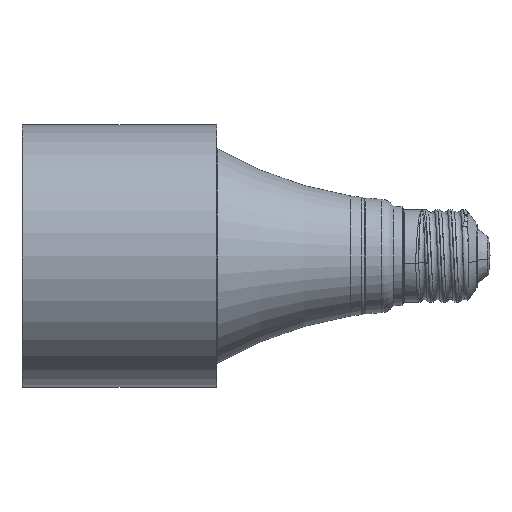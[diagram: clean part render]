
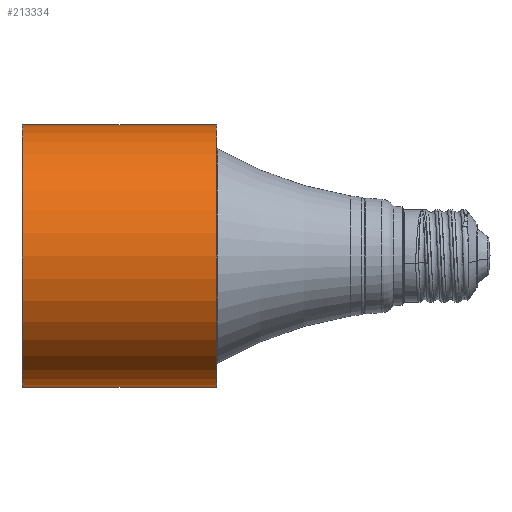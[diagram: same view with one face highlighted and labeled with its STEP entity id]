
A CAD part, left-side view. The second image highlights one B-rep face of the part: STEP entity #213334.
In plain terms, the highlighted cylindrical face has radius 37 mm (diameter 74 mm), a partial arc.
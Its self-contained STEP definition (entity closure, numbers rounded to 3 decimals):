
#212199 = VERTEX_POINT('',#212200);
#212200 = CARTESIAN_POINT('',(-37.,0.,54.8));
#212201 = VERTEX_POINT('',#212202);
#212202 = CARTESIAN_POINT('',(37.,0.,54.8));
#212254 = VERTEX_POINT('',#212255);
#212255 = CARTESIAN_POINT('',(-37.,0.,0.2));
#212263 = VERTEX_POINT('',#212264);
#212264 = CARTESIAN_POINT('',(37.,0.,0.2));
#212330 = EDGE_CURVE('',#212201,#212263,#212331,.T.);
#212331 = LINE('',#212332,#212333);
#212332 = CARTESIAN_POINT('',(37.,0.,55.));
#212333 = VECTOR('',#212334,1.);
#212334 = DIRECTION('',(-0.,-0.,-1.));
#212337 = EDGE_CURVE('',#212199,#212254,#212338,.T.);
#212338 = LINE('',#212339,#212340);
#212339 = CARTESIAN_POINT('',(-37.,0.,55.));
#212340 = VECTOR('',#212341,1.);
#212341 = DIRECTION('',(-0.,-0.,-1.));
#213334 = ADVANCED_FACE('',(#213335),#213353,.T.);
#213335 = FACE_BOUND('',#213336,.T.);
#213336 = EDGE_LOOP('',(#213337,#213338,#213345,#213346));
#213337 = ORIENTED_EDGE('',*,*,#212330,.F.);
#213338 = ORIENTED_EDGE('',*,*,#213339,.T.);
#213339 = EDGE_CURVE('',#212201,#212199,#213340,.T.);
#213340 = CIRCLE('',#213341,37.);
#213341 = AXIS2_PLACEMENT_3D('',#213342,#213343,#213344);
#213342 = CARTESIAN_POINT('',(0.,0.,54.8));
#213343 = DIRECTION('',(0.,0.,-1.));
#213344 = DIRECTION('',(1.,0.,0.));
#213345 = ORIENTED_EDGE('',*,*,#212337,.T.);
#213346 = ORIENTED_EDGE('',*,*,#213347,.T.);
#213347 = EDGE_CURVE('',#212254,#212263,#213348,.T.);
#213348 = CIRCLE('',#213349,37.);
#213349 = AXIS2_PLACEMENT_3D('',#213350,#213351,#213352);
#213350 = CARTESIAN_POINT('',(0.,0.,0.2));
#213351 = DIRECTION('',(0.,0.,1.));
#213352 = DIRECTION('',(1.,0.,-0.));
#213353 = CYLINDRICAL_SURFACE('',#213354,37.);
#213354 = AXIS2_PLACEMENT_3D('',#213355,#213356,#213357);
#213355 = CARTESIAN_POINT('',(0.,0.,55.));
#213356 = DIRECTION('',(-0.,-0.,-1.));
#213357 = DIRECTION('',(-1.,0.,0.));
